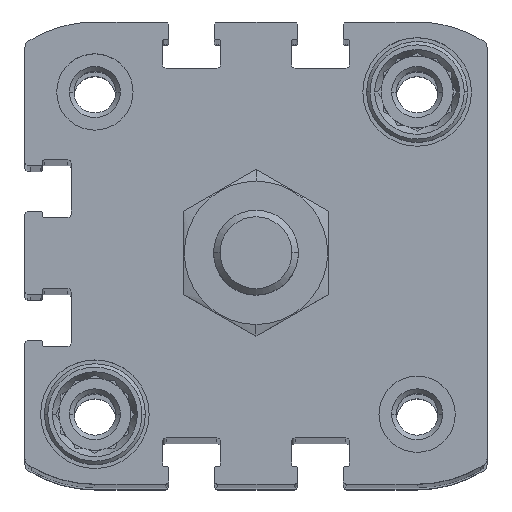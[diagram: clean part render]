
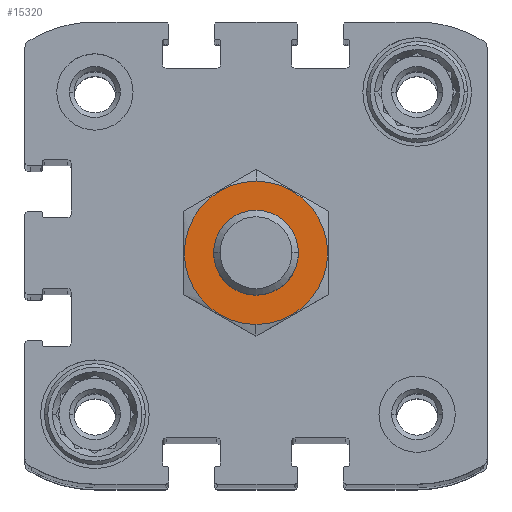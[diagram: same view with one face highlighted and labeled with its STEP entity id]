
A CAD part, top view. The second image highlights one B-rep face of the part: STEP entity #15320.
In plain terms, the highlighted planar face has unit normal (0, 0, 1) as drawn and (0, 1, 0) by its records, which use the part's own axes.
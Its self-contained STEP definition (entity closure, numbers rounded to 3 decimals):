
#896 = AXIS2_PLACEMENT_3D ( 'NONE', #2959, #11730, #4234 ) ;
#1155 = CARTESIAN_POINT ( 'NONE',  ( 0., 0., 0. ) ) ;
#1736 = EDGE_LOOP ( 'NONE', ( #7039, #2559 ) ) ;
#2424 = DIRECTION ( 'NONE',  ( 0., 0., 1. ) ) ;
#2468 = CARTESIAN_POINT ( 'NONE',  ( 0., 0., 0. ) ) ;
#2559 = ORIENTED_EDGE ( 'NONE', *, *, #9657, .F. ) ;
#2604 = DIRECTION ( 'NONE',  ( 0., -1., 0. ) ) ;
#2822 = ORIENTED_EDGE ( 'NONE', *, *, #11620, .F. ) ;
#2959 = CARTESIAN_POINT ( 'NONE',  ( 0., 0., 0. ) ) ;
#3163 = EDGE_LOOP ( 'NONE', ( #2822, #10797 ) ) ;
#3719 = DIRECTION ( 'NONE',  ( 0., 0., 1. ) ) ;
#4234 = DIRECTION ( 'NONE',  ( 0., 0., -1. ) ) ;
#4887 = AXIS2_PLACEMENT_3D ( 'NONE', #14621, #7109, #15876 ) ;
#5880 = FACE_OUTER_BOUND ( 'NONE', #1736, .T. ) ;
#6129 = CIRCLE ( 'NONE', #11988, 5. ) ;
#6854 = AXIS2_PLACEMENT_3D ( 'NONE', #10077, #2604, #11352 ) ;
#7039 = ORIENTED_EDGE ( 'NONE', *, *, #12601, .F. ) ;
#7109 = DIRECTION ( 'NONE',  ( 0., -1., 0. ) ) ;
#7284 = CIRCLE ( 'NONE', #4887, 8.45 ) ;
#8674 = CARTESIAN_POINT ( 'NONE',  ( 0., 0., 5. ) ) ;
#9012 = EDGE_CURVE ( 'NONE', #10371, #16180, #6129, .T. ) ;
#9268 = CARTESIAN_POINT ( 'NONE',  ( 0., 0., -8.45 ) ) ;
#9447 = AXIS2_PLACEMENT_3D ( 'NONE', #1155, #9903, #2424 ) ;
#9657 = EDGE_CURVE ( 'NONE', #14932, #14921, #11190, .T. ) ;
#9840 = CIRCLE ( 'NONE', #9447, 5. ) ;
#9903 = DIRECTION ( 'NONE',  ( 0., 1., 0. ) ) ;
#10077 = CARTESIAN_POINT ( 'NONE',  ( 0., 0., 0. ) ) ;
#10371 = VERTEX_POINT ( 'NONE', #15261 ) ;
#10445 = PLANE ( 'NONE',  #896 ) ;
#10797 = ORIENTED_EDGE ( 'NONE', *, *, #9012, .F. ) ;
#11190 = CIRCLE ( 'NONE', #6854, 8.45 ) ;
#11223 = DIRECTION ( 'NONE',  ( 0., 1., 0. ) ) ;
#11352 = DIRECTION ( 'NONE',  ( 0., 0., -1. ) ) ;
#11620 = EDGE_CURVE ( 'NONE', #16180, #10371, #9840, .T. ) ;
#11730 = DIRECTION ( 'NONE',  ( 0., -1., 0. ) ) ;
#11759 = FACE_BOUND ( 'NONE', #3163, .T. ) ;
#11988 = AXIS2_PLACEMENT_3D ( 'NONE', #2468, #11223, #3719 ) ;
#12601 = EDGE_CURVE ( 'NONE', #14921, #14932, #7284, .T. ) ;
#13067 = CARTESIAN_POINT ( 'NONE',  ( 0., 0., 8.45 ) ) ;
#14621 = CARTESIAN_POINT ( 'NONE',  ( 0., 0., 0. ) ) ;
#14921 = VERTEX_POINT ( 'NONE', #9268 ) ;
#14932 = VERTEX_POINT ( 'NONE', #13067 ) ;
#15261 = CARTESIAN_POINT ( 'NONE',  ( 0., 0., -5. ) ) ;
#15320 = ADVANCED_FACE ( 'NONE', ( #11759, #5880 ), #10445, .F. ) ;
#15876 = DIRECTION ( 'NONE',  ( 0., 0., -1. ) ) ;
#16180 = VERTEX_POINT ( 'NONE', #8674 ) ;
